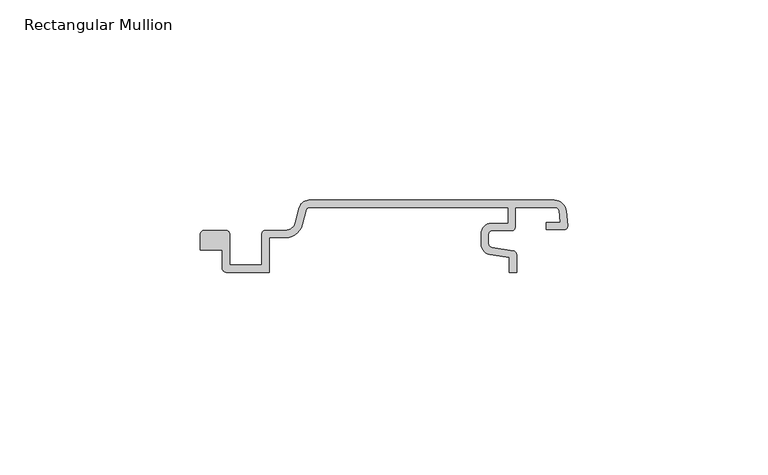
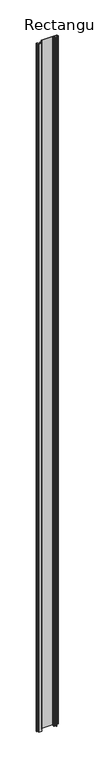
"""IFC4 building model written with IfcOpenShell, lengths in millimetres: member geometry, Rectangular Mullion : Cladding_Aluminium_Modinex_AluSelekta_Channel_75_AfricanEbony."""

from ifc_helpers import new_model, si_unit, point, frame, frame_2d, origin, place, context, project, spatial, polyline, circle_curve, trimmed, segment, composite_curve, outline, extrude, source, transform, mapped, element, save


def rectangular_mullion_894c3da7(model_context):
    return source(origin(), model_context, "Body", "SweptSolid", [
        extrude(outline(composite_curve([segment(polyline([(10.4777243, 18.0), (71.7110969, 18.0)]), True, "CONTINUOUS"), segment(trimmed(circle_curve(frame_2d((71.7110969, 15.0197717)), 2.9802283), [point((71.7110969, 18.0))], [point((74.6799845, 15.2795157))], False, "CARTESIAN"), True, "CONTINUOUS"), segment(polyline([(74.6799845, 15.2795157), (75.0, 11.6217221)]), True, "CONTINUOUS"), segment(trimmed(circle_curve(frame_2d((74.1008302, 11.5430549)), 0.9026045), [point((75.0, 11.6217221))], [point((74.1008302, 10.6404505))], False, "CARTESIAN"), True, "CONTINUOUS"), segment(polyline([(74.1008302, 10.6404505), (69.6242205, 10.6404505), (69.6242205, 12.4404505), (73.1214948, 12.4404505), (72.8636728, 15.3873702)]), True, "CONTINUOUS"), segment(trimmed(circle_curve(frame_2d((71.976843, 15.3097827)), 0.8902173), [point((72.8636728, 15.3873702))], [point((71.976843, 16.2))], True, "CARTESIAN"), True, "CONTINUOUS"), segment(polyline([(71.976843, 16.2), (61.9445473, 16.2), (61.9445473, 11.2876206)]), True, "CONTINUOUS"), segment(trimmed(circle_curve(frame_2d((61.0662478, 11.2876206)), 0.8782995), [point((61.9445473, 11.2876206))], [point((61.0662478, 10.4093211))], False, "CARTESIAN"), True, "CONTINUOUS"), segment(polyline([(61.0662478, 10.4093211), (56.1587741, 10.4093211)]), True, "CONTINUOUS"), segment(trimmed(circle_curve(frame_2d((56.1587741, 9.5093211)), 0.9), [point((56.1587741, 10.4093211))], [point((55.2587741, 9.5093211))], True, "CARTESIAN"), True, "CONTINUOUS"), segment(polyline([(55.2587741, 9.5093211), (55.2587741, 7.1198172)]), True, "CONTINUOUS"), segment(trimmed(circle_curve(frame_2d((56.1587741, 7.1198172)), 0.9), [point((55.2587741, 7.1198172))], [point((56.0179831, 6.2308977))], True, "CARTESIAN"), True, "CONTINUOUS"), segment(polyline([(56.0179831, 6.2308977), (61.4988874, 5.3628077)]), True, "CONTINUOUS"), segment(trimmed(circle_curve(frame_2d((61.3580963, 4.4738882)), 0.9), [point((61.4988874, 5.3628077))], [point((62.2580963, 4.4738882))], False, "CARTESIAN"), True, "CONTINUOUS"), segment(polyline([(62.2580963, 4.4738882), (62.2580963, 0.0), (60.4580963, 0.0), (60.4580963, 3.7052156), (55.5534639, 4.4820331)]), True, "CONTINUOUS"), segment(trimmed(circle_curve(frame_2d((55.9419123, 6.9345997)), 2.4831381), [point((55.5534639, 4.4820331))], [point((53.4587741, 6.9345997))], False, "CARTESIAN"), True, "CONTINUOUS"), segment(polyline([(53.4587741, 6.9345997), (53.4587741, 9.69705)]), True, "CONTINUOUS"), segment(trimmed(circle_curve(frame_2d((55.9710452, 9.69705)), 2.5122711), [point((53.4587741, 9.69705))], [point((55.9710452, 12.2093211))], False, "CARTESIAN"), True, "CONTINUOUS"), segment(polyline([(55.9710452, 12.2093211), (60.1445473, 12.2093211), (60.1445473, 16.2), (10.4777243, 16.2)]), True, "CONTINUOUS"), segment(trimmed(circle_curve(frame_2d((10.4777243, 15.5148111)), 0.6851889), [point((10.4777243, 16.2))], [point((9.8158825, 15.692151))], True, "CARTESIAN"), True, "CONTINUOUS"), segment(polyline([(9.8158825, 15.692151), (8.7900782, 11.8637971)]), True, "CONTINUOUS"), segment(trimmed(circle_curve(frame_2d((4.598423, 12.9869477)), 4.3395208), [point((8.7900782, 11.8637971))], [point((4.598423, 8.6474269))], False, "CARTESIAN"), True, "CONTINUOUS"), segment(polyline([(4.598423, 8.6474269), (0.5250094, 8.6474269), (0.5250094, 0.0), (-10.2245596, 0.0)]), True, "CONTINUOUS"), segment(trimmed(circle_curve(frame_2d((-10.2245596, 0.9)), 0.9), [point((-10.2245596, 0.0))], [point((-11.1245596, 0.9))], False, "CARTESIAN"), True, "CONTINUOUS"), segment(polyline([(-11.1245596, 0.9), (-11.1245596, 5.510501), (-16.6121766, 5.510501), (-16.6121766, 9.5136514)]), True, "CONTINUOUS"), segment(trimmed(circle_curve(frame_2d((-15.6784011, 9.5136514)), 0.9337754), [point((-16.6121766, 9.5136514))], [point((-15.6784011, 10.4474269))], False, "CARTESIAN"), True, "CONTINUOUS"), segment(polyline([(-15.6784011, 10.4474269), (-10.2519115, 10.4474269)]), True, "CONTINUOUS"), segment(trimmed(circle_curve(frame_2d((-10.2519115, 9.5200749)), 0.9273519), [point((-10.2519115, 10.4474269))], [point((-9.3245596, 9.5200749))], False, "CARTESIAN"), True, "CONTINUOUS"), segment(polyline([(-9.3245596, 9.5200749), (-9.3245596, 1.8), (-1.2749906, 1.8), (-1.2749906, 9.5474269)]), True, "CONTINUOUS"), segment(trimmed(circle_curve(frame_2d((-0.3749906, 9.5474269)), 0.9), [point((-1.2749906, 9.5474269))], [point((-0.3749906, 10.4474269))], False, "CARTESIAN"), True, "CONTINUOUS"), segment(polyline([(-0.3749906, 10.4474269), (4.598423, 10.4474269)]), True, "CONTINUOUS"), segment(trimmed(circle_curve(frame_2d((4.598423, 12.9869477)), 2.5395208), [point((4.598423, 10.4474269))], [point((7.0514117, 12.3296714))], True, "CARTESIAN"), True, "CONTINUOUS"), segment(polyline([(7.0514117, 12.3296714), (8.0772161, 16.1580253)]), True, "CONTINUOUS"), segment(trimmed(circle_curve(frame_2d((10.4777243, 15.5148111)), 2.4851889), [point((8.0772161, 16.1580253))], [point((10.4777243, 18.0))], False, "CARTESIAN"), True, "CONTINUOUS")], self_intersect=False)), frame((0.0, 0.0, -3000.0), z_axis=(0.0, 0.0, 1.0), x_axis=(1.0, 0.0, 0.0)), (0.0, 0.0, 1.0), 3000.0),
    ])


if __name__ == "__main__":
    model = new_model("IFC4")
    model_context = context("Model", 3, world=origin())
    ifc_project = project(units=[si_unit("LENGTHUNIT", "METRE", prefix="MILLI")], contexts=[model_context])
    site = spatial("IfcSite", under=ifc_project)
    building = spatial("IfcBuilding", under=site)
    placement = place(None, origin())
    rectangular_mullion_shape = rectangular_mullion_894c3da7(model_context)
    element("IfcMember", 1, ObjectType="Rectangular Mullion : Cladding_Aluminium_Modinex_AluSelekta_Channel_75_AfricanEbony", at=placement, inside=building, context=model_context, shape_type="MappedRepresentation", body=[
        mapped(rectangular_mullion_shape, transform((0.0, 0.0, 0.0), x_axis=(1.0, 0.0, 0.0), y_axis=(0.0, 1.0, 0.0), z_axis=(0.0, 0.0, 1.0))),
    ])
    save(model, "model.ifc")
